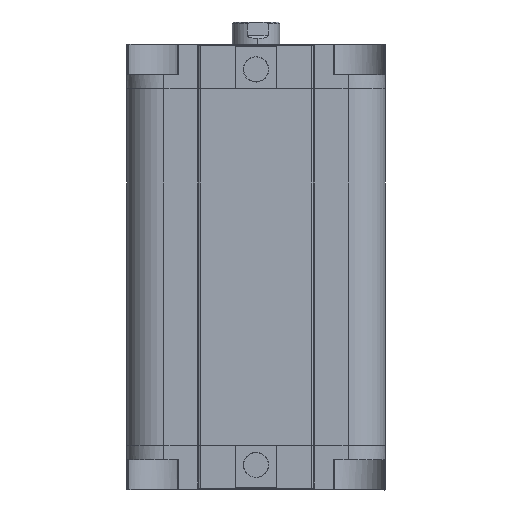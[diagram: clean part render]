
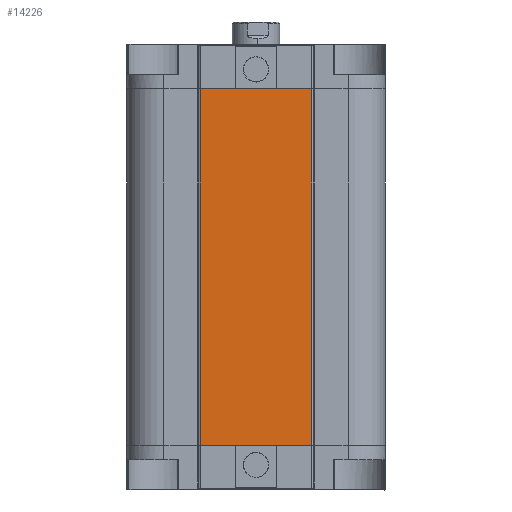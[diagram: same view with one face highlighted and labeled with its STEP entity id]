
A CAD part, front view. The second image highlights one B-rep face of the part: STEP entity #14226.
In plain terms, the highlighted planar face has unit normal (0, -1, 0).
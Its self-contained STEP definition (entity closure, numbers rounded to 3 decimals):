
#57 = CARTESIAN_POINT ( 'NONE',  ( -18.838, -47.5, -120. ) ) ;
#968 = DIRECTION ( 'NONE',  ( 0., 0., -1. ) ) ;
#1614 = PLANE ( 'NONE',  #21072 ) ;
#1695 = LINE ( 'NONE', #13881, #19976 ) ;
#1842 = DIRECTION ( 'NONE',  ( 0., 0., 1. ) ) ;
#2356 = ORIENTED_EDGE ( 'NONE', *, *, #19484, .F. ) ;
#2976 = ORIENTED_EDGE ( 'NONE', *, *, #22502, .T. ) ;
#3246 = CARTESIAN_POINT ( 'NONE',  ( -18.838, -47.5, 0. ) ) ;
#3418 = DIRECTION ( 'NONE',  ( 1., 0., 0. ) ) ;
#3675 = LINE ( 'NONE', #21654, #7826 ) ;
#3972 = LINE ( 'NONE', #5426, #7001 ) ;
#3975 = VERTEX_POINT ( 'NONE', #7381 ) ;
#5190 = VECTOR ( 'NONE', #15869, 1000. ) ;
#5426 = CARTESIAN_POINT ( 'NONE',  ( -18.838, -47.5, -60. ) ) ;
#7001 = VECTOR ( 'NONE', #7211, 1000. ) ;
#7211 = DIRECTION ( 'NONE',  ( 0., 0., 1. ) ) ;
#7381 = CARTESIAN_POINT ( 'NONE',  ( -18.838, -47.5, -120. ) ) ;
#7826 = VECTOR ( 'NONE', #968, 1000. ) ;
#9773 = EDGE_CURVE ( 'NONE', #3975, #18317, #3972, .T. ) ;
#10084 = EDGE_CURVE ( 'NONE', #17601, #16219, #3675, .T. ) ;
#11203 = CARTESIAN_POINT ( 'NONE',  ( 18.838, -47.5, 0. ) ) ;
#12382 = DIRECTION ( 'NONE',  ( 0., 1., 0. ) ) ;
#13881 = CARTESIAN_POINT ( 'NONE',  ( -43.5, -47.5, 0. ) ) ;
#14226 = ADVANCED_FACE ( 'NONE', ( #17036 ), #1614, .F. ) ;
#15869 = DIRECTION ( 'NONE',  ( 1., 0., 0. ) ) ;
#16219 = VERTEX_POINT ( 'NONE', #17985 ) ;
#16628 = ORIENTED_EDGE ( 'NONE', *, *, #9773, .F. ) ;
#16996 = ORIENTED_EDGE ( 'NONE', *, *, #10084, .F. ) ;
#17036 = FACE_OUTER_BOUND ( 'NONE', #18216, .T. ) ;
#17601 = VERTEX_POINT ( 'NONE', #11203 ) ;
#17674 = CARTESIAN_POINT ( 'NONE',  ( -18.838, -47.5, -120. ) ) ;
#17985 = CARTESIAN_POINT ( 'NONE',  ( 18.838, -47.5, -120. ) ) ;
#18216 = EDGE_LOOP ( 'NONE', ( #16628, #2976, #16996, #2356 ) ) ;
#18317 = VERTEX_POINT ( 'NONE', #3246 ) ;
#18697 = LINE ( 'NONE', #17674, #5190 ) ;
#19484 = EDGE_CURVE ( 'NONE', #18317, #17601, #1695, .T. ) ;
#19976 = VECTOR ( 'NONE', #3418, 1000. ) ;
#21072 = AXIS2_PLACEMENT_3D ( 'NONE', #57, #12382, #1842 ) ;
#21654 = CARTESIAN_POINT ( 'NONE',  ( 18.838, -47.5, -60. ) ) ;
#22502 = EDGE_CURVE ( 'NONE', #3975, #16219, #18697, .T. ) ;
